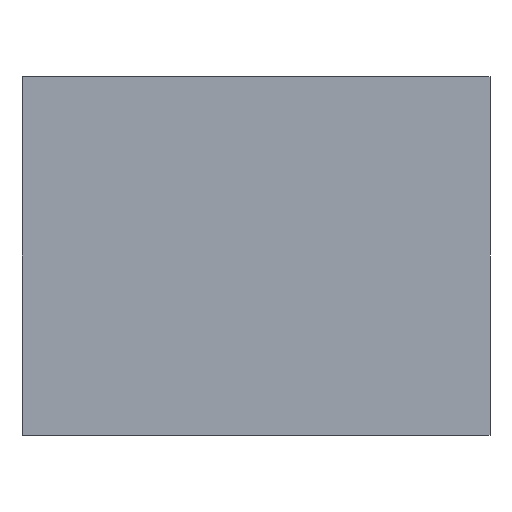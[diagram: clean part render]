
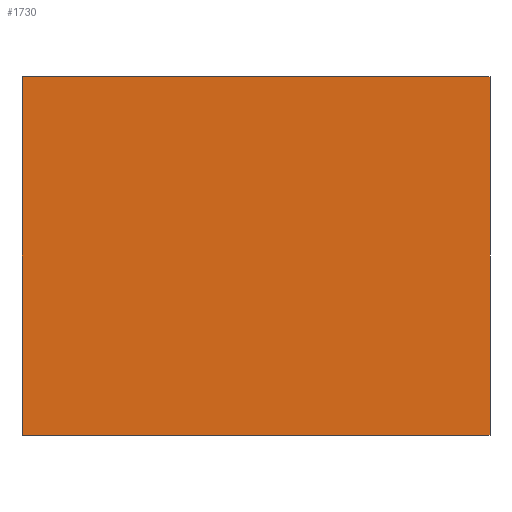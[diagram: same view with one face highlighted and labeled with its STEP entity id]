
A CAD part, front view. The second image highlights one B-rep face of the part: STEP entity #1730.
In plain terms, the highlighted planar face has unit normal (0, -1, 0).
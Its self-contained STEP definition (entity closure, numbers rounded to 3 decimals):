
#51 = CARTESIAN_POINT ( 'NONE',  ( 150., 0., -115. ) ) ;
#87 = DIRECTION ( 'NONE',  ( 0., 0., -1. ) ) ;
#225 = VERTEX_POINT ( 'NONE', #645 ) ;
#244 = CARTESIAN_POINT ( 'NONE',  ( -150., 0., -115. ) ) ;
#301 = EDGE_CURVE ( 'NONE', #672, #1303, #887, .T. ) ;
#345 = CARTESIAN_POINT ( 'NONE',  ( -150., 0., 115. ) ) ;
#403 = DIRECTION ( 'NONE',  ( 0., 1., 0. ) ) ;
#404 = VECTOR ( 'NONE', #87, 1000. ) ;
#520 = VECTOR ( 'NONE', #2157, 1000. ) ;
#537 = ORIENTED_EDGE ( 'NONE', *, *, #2077, .F. ) ;
#641 = CARTESIAN_POINT ( 'NONE',  ( -150., 0., -115. ) ) ;
#645 = CARTESIAN_POINT ( 'NONE',  ( -150., 0., -115. ) ) ;
#672 = VERTEX_POINT ( 'NONE', #2017 ) ;
#715 = DIRECTION ( 'NONE',  ( -1., 0., 0. ) ) ;
#718 = EDGE_LOOP ( 'NONE', ( #1322, #537, #890, #1831 ) ) ;
#801 = VECTOR ( 'NONE', #715, 1000. ) ;
#851 = DIRECTION ( 'NONE',  ( 0., 0., 1. ) ) ;
#887 = LINE ( 'NONE', #51, #404 ) ;
#890 = ORIENTED_EDGE ( 'NONE', *, *, #1059, .F. ) ;
#905 = CARTESIAN_POINT ( 'NONE',  ( 150., 0., -115. ) ) ;
#1059 = EDGE_CURVE ( 'NONE', #225, #1701, #1851, .T. ) ;
#1097 = FACE_OUTER_BOUND ( 'NONE', #718, .T. ) ;
#1125 = CARTESIAN_POINT ( 'NONE',  ( -150., 0., 115. ) ) ;
#1256 = EDGE_CURVE ( 'NONE', #1303, #225, #2031, .T. ) ;
#1303 = VERTEX_POINT ( 'NONE', #905 ) ;
#1322 = ORIENTED_EDGE ( 'NONE', *, *, #301, .F. ) ;
#1443 = PLANE ( 'NONE',  #1843 ) ;
#1701 = VERTEX_POINT ( 'NONE', #1125 ) ;
#1724 = CARTESIAN_POINT ( 'NONE',  ( 0., 0., 0. ) ) ;
#1730 = ADVANCED_FACE ( 'NONE', ( #1097 ), #1443, .F. ) ;
#1796 = LINE ( 'NONE', #345, #520 ) ;
#1801 = VECTOR ( 'NONE', #851, 1000. ) ;
#1831 = ORIENTED_EDGE ( 'NONE', *, *, #1256, .F. ) ;
#1843 = AXIS2_PLACEMENT_3D ( 'NONE', #1724, #403, #2057 ) ;
#1851 = LINE ( 'NONE', #641, #1801 ) ;
#2017 = CARTESIAN_POINT ( 'NONE',  ( 150., 0., 115. ) ) ;
#2031 = LINE ( 'NONE', #244, #801 ) ;
#2057 = DIRECTION ( 'NONE',  ( 0., 0., 1. ) ) ;
#2077 = EDGE_CURVE ( 'NONE', #1701, #672, #1796, .T. ) ;
#2157 = DIRECTION ( 'NONE',  ( 1., 0., 0. ) ) ;
